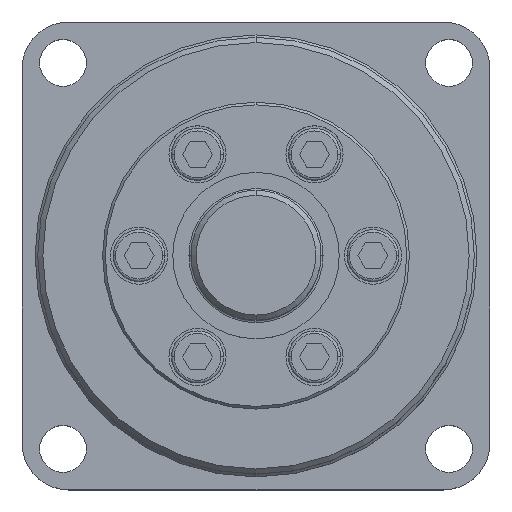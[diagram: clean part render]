
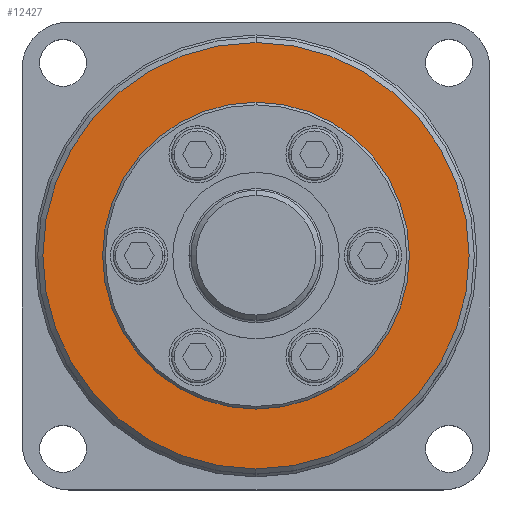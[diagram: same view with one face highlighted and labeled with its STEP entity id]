
A CAD part, top view. The second image highlights one B-rep face of the part: STEP entity #12427.
In plain terms, the highlighted planar face has unit normal (0, 0, 1).
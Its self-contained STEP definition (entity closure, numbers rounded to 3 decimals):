
#3787=CARTESIAN_POINT('',(0.,0.,26.));
#3788=DIRECTION('',(0.,0.,-1.));
#3789=DIRECTION('',(0.,1.,0.));
#3790=AXIS2_PLACEMENT_3D('',#3787,#3788,#3789);
#3792=CARTESIAN_POINT('',(0.,0.,26.));
#3793=DIRECTION('',(0.,0.,-1.));
#3794=DIRECTION('',(0.,-1.,0.));
#3795=AXIS2_PLACEMENT_3D('',#3792,#3793,#3794);
#3797=CARTESIAN_POINT('',(0.,0.,26.));
#3798=DIRECTION('',(0.,0.,1.));
#3799=DIRECTION('',(0.,-1.,0.));
#3800=AXIS2_PLACEMENT_3D('',#3797,#3798,#3799);
#3802=CARTESIAN_POINT('',(0.,0.,26.));
#3803=DIRECTION('',(0.,0.,1.));
#3804=DIRECTION('',(0.,1.,0.));
#3805=AXIS2_PLACEMENT_3D('',#3802,#3803,#3804);
#5561=CARTESIAN_POINT('',(0.,41.,26.));
#5562=VERTEX_POINT('',#5561);
#5563=CARTESIAN_POINT('',(0.,-41.,26.));
#5564=VERTEX_POINT('',#5563);
#5565=CARTESIAN_POINT('',(0.,-29.5,26.));
#5566=CARTESIAN_POINT('',(0.,29.5,26.));
#5567=VERTEX_POINT('',#5565);
#5568=VERTEX_POINT('',#5566);
#12412=CARTESIAN_POINT('',(0.,0.,26.));
#12413=DIRECTION('',(0.,0.,1.));
#12414=DIRECTION('',(0.,-1.,0.));
#12415=AXIS2_PLACEMENT_3D('',#12412,#12413,#12414);
#12416=PLANE('',#12415);
#12417=ORIENTED_EDGE('',*,*,#12407,.T.);
#12418=ORIENTED_EDGE('',*,*,#12391,.T.);
#12419=EDGE_LOOP('',(#12417,#12418));
#12420=FACE_OUTER_BOUND('',#12419,.F.);
#12422=ORIENTED_EDGE('',*,*,#12421,.T.);
#12424=ORIENTED_EDGE('',*,*,#12423,.T.);
#12425=EDGE_LOOP('',(#12422,#12424));
#12426=FACE_BOUND('',#12425,.F.);
#12427=ADVANCED_FACE('',(#12420,#12426),#12416,.T.);
#3791=CIRCLE('',#3790,41.);
#3796=CIRCLE('',#3795,41.);
#3801=CIRCLE('',#3800,29.5);
#3806=CIRCLE('',#3805,29.5);
#12391=EDGE_CURVE('',#5564,#5562,#3796,.T.);
#12407=EDGE_CURVE('',#5562,#5564,#3791,.T.);
#12421=EDGE_CURVE('',#5567,#5568,#3801,.T.);
#12423=EDGE_CURVE('',#5568,#5567,#3806,.T.);
